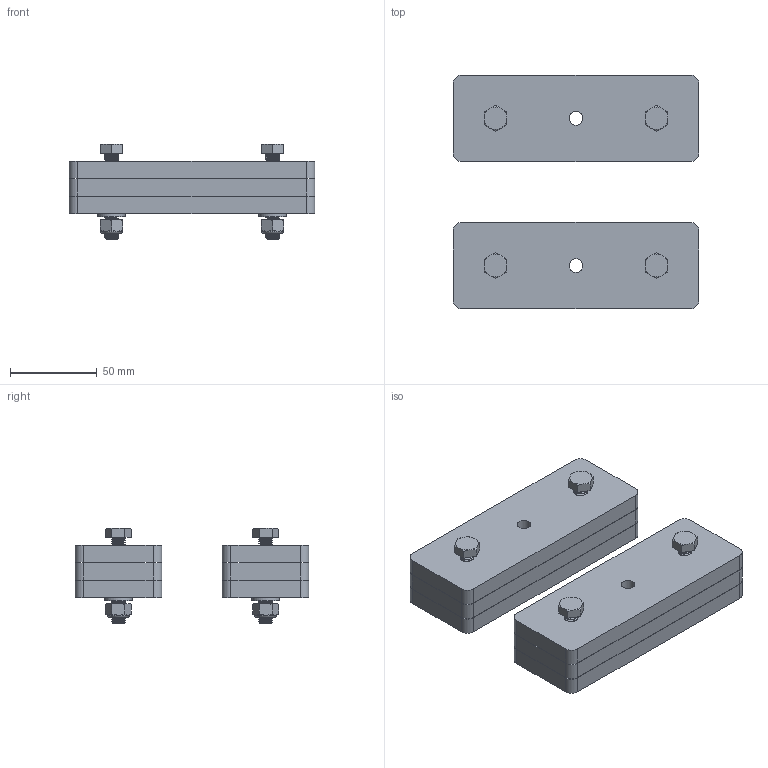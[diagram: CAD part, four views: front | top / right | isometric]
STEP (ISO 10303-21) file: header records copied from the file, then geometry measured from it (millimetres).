
FILE_DESCRIPTION(/* description */ (''),/* implementation_level */ '2;1');
FILE_NAME(/* name */ 'MAGMA_Standardhaltersatz.step',/* time_stamp */ '2023-04-12T11:16:55+02:00',/* author */ (''),/* organization */ (''),/* preprocessor_version */ 'ST-DEVELOPER v19.2',/* originating_system */ 'Autodesk Translation Framework v12.4.0.73',/* authorisation */ '');
FILE_SCHEMA (('AUTOMOTIVE_DESIGN { 1 0 10303 214 3 1 1 }'));
Length unit declared in the file: millimetre
Products named in the file (2): Haltersatz; Paket_1
Assembly tree (2 placements, depth 2):
  Haltersatz
    Paket_1  x2
Bounding box: 142 x 135 x 55.3 mm (x, y, z)
Volume: 431164.9 mm3; surface area: 126448 mm2
Topology: 22 solids, 22 shells, 678 faces, 1794 edges, 1172 vertices
Faces by surface type: cylinder 426, plane 128, cone 96, bspline 16, torus 12
Full cylindrical faces by diameter (mm): 5.971 x4, 6.376 x168, 8 x186, 8.152 x4, 9 x4, 16 x4
Entity records: 25994 total; most frequent: CARTESIAN_POINT 18550, ORIENTED_EDGE 1794, DIRECTION 1233, EDGE_CURVE 897, VERTEX_POINT 586, AXIS2_PLACEMENT_3D 473, EDGE_LOOP 375, FACE_OUTER_BOUND 339
